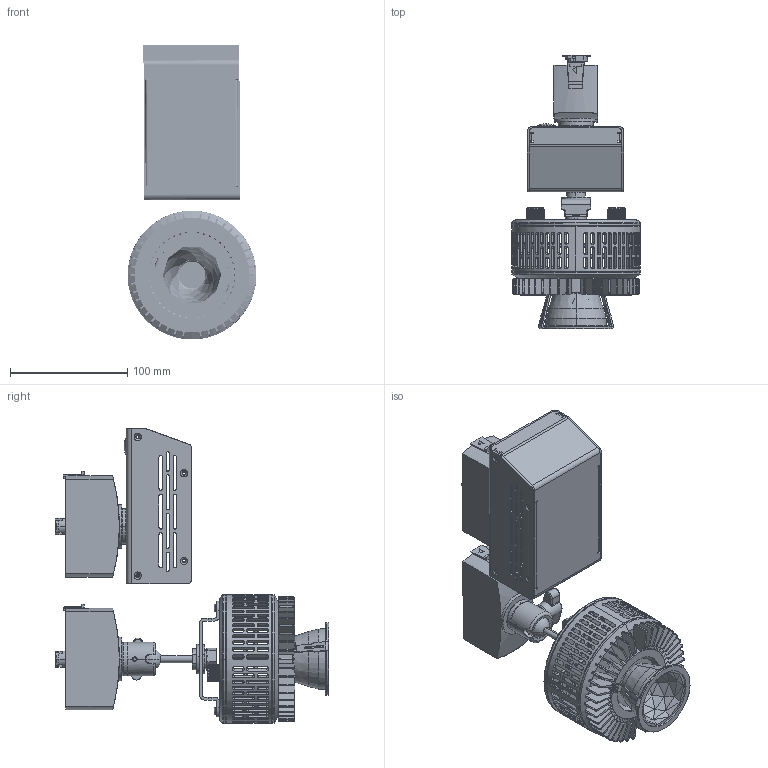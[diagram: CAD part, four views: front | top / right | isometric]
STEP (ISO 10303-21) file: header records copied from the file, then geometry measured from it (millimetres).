
FILE_DESCRIPTION (( 'STEP AP214' ), '1' );
FILE_NAME ('W360N-TJ-PS.STEP', '2024-01-31T01:01:35', ( '' ), ( '' ), 'SwSTEP 2.0', 'SolidWorks 2022', '' );
FILE_SCHEMA (( 'AUTOMOTIVE_DESIGN' ));
Length unit declared in the file: millimetre
Products named in the file (40): 5020893-2010525020_ _Flat Washer, M10, ID10.5 OD25.0, T2 SUS 304___; 62280-5413010_ _SCREW, FLAT PAN HEAD, TORX W-THD LOCK, SUS-304, M3xL10mm___; 5022443-002_A1_JUNO Trac Transfer Parts B___; 62280-1363010_ _SCREW, M3x10mmL, PAN HEAD TORX WITH THREAD LOCK___; 5022444_A1_Retaining M4 for JUNO, L=20mm___; 5022398-XXX_A1_Plug for W Series, 19x10x9.4mm_For W360; 5020757-002_A2_VR Washer, Kessil A360 Aquarium Light___; 5022430-XXX_A1_Ball Joint Part C (For TDE), L=18.9mm___; W360N-TJ-PS; 5022693-XXX_A1_Bracket, 98.85x25x17.5, T=2.5mm___; 5020757-001_A1_VR Nut, Kessil A360 Aquarium Light___; 62280-1343006_ _SCREW, PAN HEAD TROX W-THD LOCK, SUS-410, BLACK, M3xL6mm___; 5022445-XXX_A1_DC Plug for W Series, D=12mm_-002(Black); 5010176-XXX_A2_Assembly BOM, Kessil W360_35D-TSG; 5022534-XXX_A1_150W Power Box Cover, 132.5x79x54.5(H)mm, TG&TJ&CLP&TEX-PS Type_PS; 5120521-XXX_A2_Assembly BOM, W360 Light Engine_Finish; 5060069-XXX_A2_W series Reflector-35, OD=62, H=45mm___; 62282-5014005_ _Standard Types of Metric Set Screws, M4xL5, Black___; 5021416_A1_Hex Nut, M10xP1.5, T8 SUS___; 5120526-XXX_A2_Assembly BOM, W360 Reflector Type_Reflector - 35D; 62432-11100100140040_ _Hex Nuts Customized, M10 P1.0 S14 T4 W-Zinc___; 5022516-00031_A1_Button Type Round Hole Plug for KANG YANG, Black___; 5022452-003_A3_Reflector Sink Holder, D108x14.35(H)mm (-004 is White)_-003(Black); 5022708-XXX_A2_Ball Joint Axis, L=65.8mm___; 62280-2163006_ _SCREW, FLAT HEAD TORX W-THD LOCK, SUS-304, BLACK, M3.0 x L6.0mm___; 5020897-2010216520_ _Helical Spring Washer Customized___; 5120511-XXX_A3_Assembly BOM, Power Box for W360_TOX-PS (2Circuits (9219-2S)); 5120522-XXX_A3_Assembly BOM, W360&W500 Light Mounting Type_For W360_TSG; 5022453-XXX_A1_35D Sink Holder B, 71.2x62.2x31.1(H)mm___; 5120532-XXX_A1_Rear Panel, OD=110, T=8.3mm, W-Series_____; 5020893-3211020005_ _Flat Washer Customized, Nylon Black, ID11mm OD20mm T0.5mm___; 5047587-XXX_A1_Pendant Adapter for Juno Trac-Master (T Series)_Finish; 5022431-XXX_A1_Ball Joint Part A, L=23.7mm___; 5021926-XXX_A2_KNOB, 18T, OD=14.9, ID=6, L=10MM_C1; 5022375-XXX_A4_150W Power Box Frame, 132.5x82x56(H)mm___; 5022443-001_A1_JUNO Trac Transfer Parts A___; 5021925_A1_PLATE, R=37.5, W=50, T=2MM___; 5022405-XXX_A1_Wing Knob Screws, M6xL8.0mm_-001; 5120533-XXX_A3_Housing, OD=110, ID=105, T=47.5mm, For Reflector___; 5047587-XXX_A1_Pendant Adapter for Juno Trac-Master (T Series)_Finish_2
Assembly tree (48 placements, depth 4):
  W360N-TJ-PS
    5010176-XXX_A2_Assembly BOM, Kessil W360_35D-TSG
      5120521-XXX_A2_Assembly BOM, W360 Light Engine_Finish
        5120532-XXX_A1_Rear Panel, OD=110, T=8.3mm, W-Series_____
        5022445-XXX_A1_DC Plug for W Series, D=12mm_-002(Black)
        5022398-XXX_A1_Plug for W Series, 19x10x9.4mm_For W360
        62280-1363010_ _SCREW, M3x10mmL, PAN HEAD TORX WITH THREAD LOCK___  x2
        5020757-002_A2_VR Washer, Kessil A360 Aquarium Light___  x2
        5020757-001_A1_VR Nut, Kessil A360 Aquarium Light___  x2
        5021926-XXX_A2_KNOB, 18T, OD=14.9, ID=6, L=10MM_C1  x2
      5120526-XXX_A2_Assembly BOM, W360 Reflector Type_Reflector - 35D
        5120533-XXX_A3_Housing, OD=110, ID=105, T=47.5mm, For Reflector___
        5021925_A1_PLATE, R=37.5, W=50, T=2MM___
        62280-2163006_ _SCREW, FLAT HEAD TORX W-THD LOCK, SUS-304, BLACK, M3.0 x L6.0mm___  x2
        62280-1343006_ _SCREW, PAN HEAD TROX W-THD LOCK, SUS-410, BLACK, M3xL6mm___  x2
        5022452-003_A3_Reflector Sink Holder, D108x14.35(H)mm (-004 is White)_-003(Black)
        5022453-XXX_A1_35D Sink Holder B, 71.2x62.2x31.1(H)mm___
        5060069-XXX_A2_W series Reflector-35, OD=62, H=45mm___
        62280-5413010_ _SCREW, FLAT PAN HEAD, TORX W-THD LOCK, SUS-304, M3xL10mm___  x2
      5120522-XXX_A3_Assembly BOM, W360&W500 Light Mounting Type_For W360_TSG
        5022431-XXX_A1_Ball Joint Part A, L=23.7mm___
        5022430-XXX_A1_Ball Joint Part C (For TDE), L=18.9mm___
        5022708-XXX_A2_Ball Joint Axis, L=65.8mm___
        62282-5014005_ _Standard Types of Metric Set Screws, M4xL5, Black___
        5022405-XXX_A1_Wing Knob Screws, M6xL8.0mm_-001
        5022693-XXX_A1_Bracket, 98.85x25x17.5, T=2.5mm___
        5047587-XXX_A1_Pendant Adapter for Juno Trac-Master (T Series)_Finish
        5022444_A1_Retaining M4 for JUNO, L=20mm___
        5020893-2010525020_ _Flat Washer, M10, ID10.5 OD25.0, T2 SUS 304___  x2
        5020897-2010216520_ _Helical Spring Washer Customized___
        5021416_A1_Hex Nut, M10xP1.5, T8 SUS___
    5120511-XXX_A3_Assembly BOM, Power Box for W360_TOX-PS (2Circuits (9219-2S))
      5022375-XXX_A4_150W Power Box Frame, 132.5x82x56(H)mm___
      5047587-XXX_A1_Pendant Adapter for Juno Trac-Master (T Series)_Finish_2
      5022443-001_A1_JUNO Trac Transfer Parts A___
      5022443-002_A1_JUNO Trac Transfer Parts B___
      5020893-3211020005_ _Flat Washer Customized, Nylon Black, ID11mm OD20mm T0.5mm___  x2
      5022516-00031_A1_Button Type Round Hole Plug for KANG YANG, Black___
      62432-11100100140040_ _Hex Nuts Customized, M10 P1.0 S14 T4 W-Zinc___
      5022534-XXX_A1_150W Power Box Cover, 132.5x79x54.5(H)mm, TG&TJ&CLP&TEX-PS Type_PS
Bounding box: 110 x 233.41 x 252.01 mm (x, y, z)
Volume: 310868.3 mm3; surface area: 338628.4 mm2
Topology: 77 solids, 77 shells, 4965 faces, 13546 edges, 8777 vertices
Faces by surface type: plane 2147, cylinder 1657, bspline 691, cone 292, torus 152, sphere 26
Entity records: 192723 total; most frequent: CARTESIAN_POINT 60994, ORIENTED_EDGE 23822, DIRECTION 19054, EDGE_CURVE 11911, VERTEX_POINT 7734, LINE 6430, VECTOR 6430, AXIS2_PLACEMENT_3D 6312
